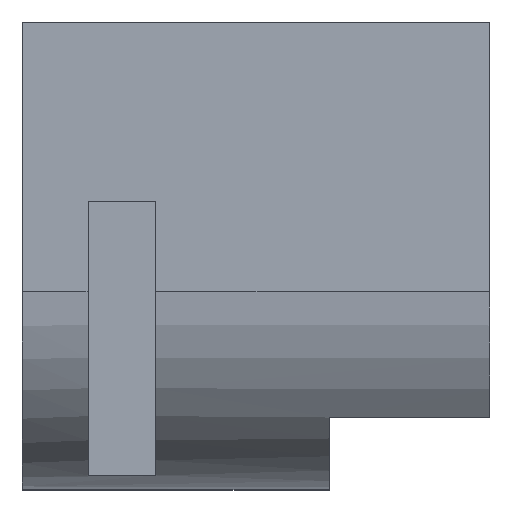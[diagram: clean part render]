
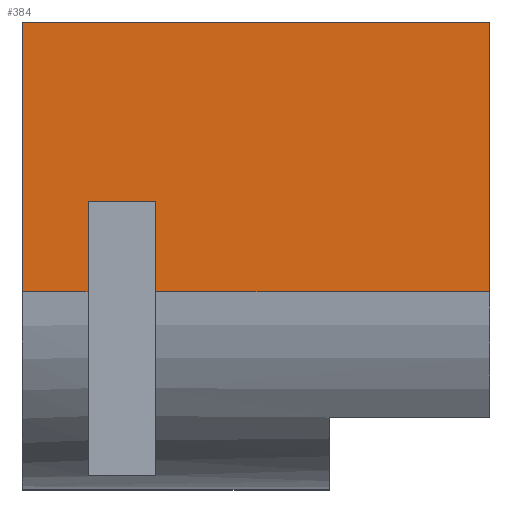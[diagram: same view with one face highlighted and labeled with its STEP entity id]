
A CAD part, top view. The second image highlights one B-rep face of the part: STEP entity #384.
In plain terms, the highlighted planar face has unit normal (0, 0, 1).
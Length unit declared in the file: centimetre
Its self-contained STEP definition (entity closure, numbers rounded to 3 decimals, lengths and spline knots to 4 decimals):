
#12 = VERTEX_POINT ( 'NONE', #449 ) ;
#16 = CARTESIAN_POINT ( 'NONE',  ( 285.4075, 616.6504, 1000. ) ) ;
#18 = EDGE_LOOP ( 'NONE', ( #133, #473, #479, #62, #521, #508, #48, #353 ) ) ;
#24 = CARTESIAN_POINT ( 'NONE',  ( 140.4252, 616.6504, 1000. ) ) ;
#26 = LINE ( 'NONE', #326, #276 ) ;
#37 = DIRECTION ( 'NONE',  ( 1., 0., 0. ) ) ;
#48 = ORIENTED_EDGE ( 'NONE', *, *, #265, .T. ) ;
#56 = EDGE_CURVE ( 'NONE', #84, #114, #238, .T. ) ;
#60 = CARTESIAN_POINT ( 'NONE',  ( 0., 1000., 1000. ) ) ;
#62 = ORIENTED_EDGE ( 'NONE', *, *, #167, .T. ) ;
#74 = DIRECTION ( 'NONE',  ( -1., 0., 0. ) ) ;
#83 = CARTESIAN_POINT ( 'NONE',  ( 140.4252, 616.6504, 1000. ) ) ;
#84 = VERTEX_POINT ( 'NONE', #149 ) ;
#90 = VECTOR ( 'NONE', #74, 100. ) ;
#92 = FACE_OUTER_BOUND ( 'NONE', #18, .T. ) ;
#98 = EDGE_CURVE ( 'NONE', #291, #12, #489, .T. ) ;
#101 = VERTEX_POINT ( 'NONE', #60 ) ;
#104 = DIRECTION ( 'NONE',  ( 0., -1., 0. ) ) ;
#114 = VERTEX_POINT ( 'NONE', #458 ) ;
#118 = CARTESIAN_POINT ( 'NONE',  ( 0., 1000., 1000. ) ) ;
#126 = DIRECTION ( 'NONE',  ( 1., 0., 0. ) ) ;
#133 = ORIENTED_EDGE ( 'NONE', *, *, #98, .F. ) ;
#146 = VECTOR ( 'NONE', #126, 100. ) ;
#149 = CARTESIAN_POINT ( 'NONE',  ( 285.4075, 616.6504, 1000. ) ) ;
#156 = VERTEX_POINT ( 'NONE', #409 ) ;
#161 = EDGE_CURVE ( 'NONE', #465, #101, #26, .T. ) ;
#167 = EDGE_CURVE ( 'NONE', #114, #446, #199, .T. ) ;
#168 = VECTOR ( 'NONE', #299, 100. ) ;
#195 = DIRECTION ( 'NONE',  ( -1., 0., 0. ) ) ;
#199 = LINE ( 'NONE', #552, #329 ) ;
#238 = LINE ( 'NONE', #16, #551 ) ;
#243 = LINE ( 'NONE', #118, #168 ) ;
#246 = CARTESIAN_POINT ( 'NONE',  ( 140.4252, 616.6504, 1000. ) ) ;
#251 = LINE ( 'NONE', #567, #146 ) ;
#253 = CARTESIAN_POINT ( 'NONE',  ( 1000., 1000., 1000. ) ) ;
#256 = PLANE ( 'NONE',  #540 ) ;
#265 = EDGE_CURVE ( 'NONE', #101, #156, #243, .T. ) ;
#276 = VECTOR ( 'NONE', #195, 100. ) ;
#291 = VERTEX_POINT ( 'NONE', #246 ) ;
#299 = DIRECTION ( 'NONE',  ( 0., -1., 0. ) ) ;
#313 = LINE ( 'NONE', #83, #90 ) ;
#326 = CARTESIAN_POINT ( 'NONE',  ( 0., 1000., 1000. ) ) ;
#329 = VECTOR ( 'NONE', #537, 100. ) ;
#337 = EDGE_CURVE ( 'NONE', #446, #465, #517, .T. ) ;
#339 = VECTOR ( 'NONE', #396, 100. ) ;
#353 = ORIENTED_EDGE ( 'NONE', *, *, #504, .T. ) ;
#361 = DIRECTION ( 'NONE',  ( 0., -1., 0. ) ) ;
#363 = EDGE_CURVE ( 'NONE', #84, #291, #313, .T. ) ;
#384 = ADVANCED_FACE ( 'NONE', ( #92 ), #256, .T. ) ;
#396 = DIRECTION ( 'NONE',  ( 0., 1., 0. ) ) ;
#406 = CARTESIAN_POINT ( 'NONE',  ( 1000., 1000., 1000. ) ) ;
#409 = CARTESIAN_POINT ( 'NONE',  ( 0., 423.0643, 1000. ) ) ;
#428 = CARTESIAN_POINT ( 'NONE',  ( 0., 0., 1000. ) ) ;
#433 = CARTESIAN_POINT ( 'NONE',  ( 1000., 423.0643, 1000. ) ) ;
#438 = DIRECTION ( 'NONE',  ( 0., 0., 1. ) ) ;
#446 = VERTEX_POINT ( 'NONE', #433 ) ;
#449 = CARTESIAN_POINT ( 'NONE',  ( 140.4252, 423.0643, 1000. ) ) ;
#458 = CARTESIAN_POINT ( 'NONE',  ( 285.4075, 423.0643, 1000. ) ) ;
#465 = VERTEX_POINT ( 'NONE', #253 ) ;
#473 = ORIENTED_EDGE ( 'NONE', *, *, #363, .F. ) ;
#479 = ORIENTED_EDGE ( 'NONE', *, *, #56, .T. ) ;
#489 = LINE ( 'NONE', #24, #539 ) ;
#504 = EDGE_CURVE ( 'NONE', #156, #12, #251, .T. ) ;
#508 = ORIENTED_EDGE ( 'NONE', *, *, #161, .T. ) ;
#517 = LINE ( 'NONE', #406, #339 ) ;
#521 = ORIENTED_EDGE ( 'NONE', *, *, #337, .T. ) ;
#537 = DIRECTION ( 'NONE',  ( 1., 0., 0. ) ) ;
#539 = VECTOR ( 'NONE', #104, 100. ) ;
#540 = AXIS2_PLACEMENT_3D ( 'NONE', #428, #438, #37 ) ;
#551 = VECTOR ( 'NONE', #361, 100. ) ;
#552 = CARTESIAN_POINT ( 'NONE',  ( 1000., 423.0643, 1000. ) ) ;
#567 = CARTESIAN_POINT ( 'NONE',  ( 1000., 423.0643, 1000. ) ) ;
